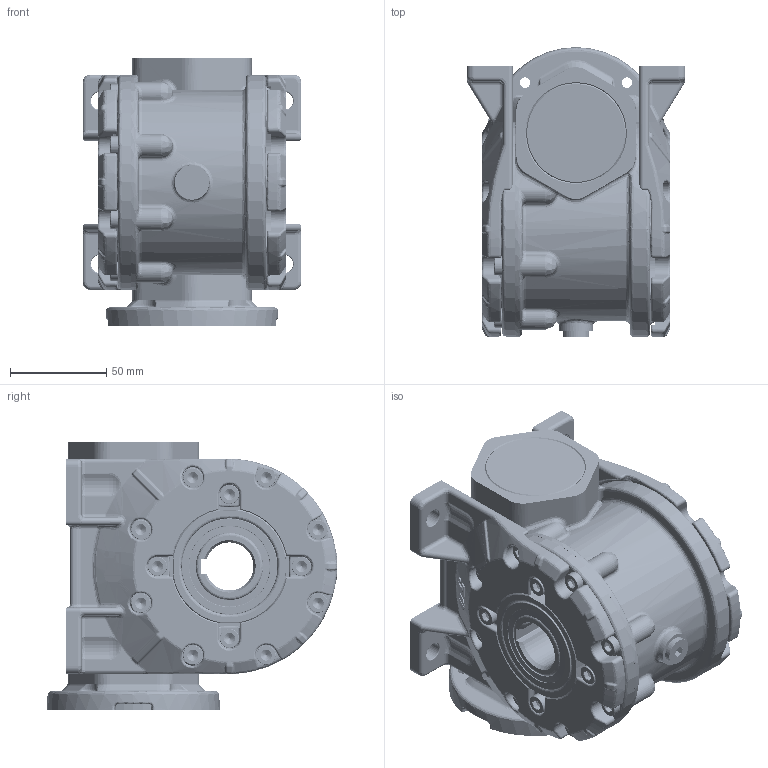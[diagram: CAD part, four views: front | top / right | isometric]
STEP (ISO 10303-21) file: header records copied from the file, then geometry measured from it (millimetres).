
FILE_DESCRIPTION (( 'STEP AP214' ), '1' );
FILE_NAME ('Sestava MRT50A-B.STEP', '2007-03-28T10:21:06', ( '' ), ( '' ), 'SwSTEP 2.0', 'SolidWorks 2004146', '' );
FILE_SCHEMA (( 'AUTOMOTIVE_DESIGN' ));
Length unit declared in the file: millimetre
Products named in the file (1): Sestava MRT50A-B
Bounding box: 114 x 151 x 140 mm (x, y, z)
Volume: 849183.2 mm3; surface area: 342027.7 mm2
Topology: 42 solids, 42 shells, 4811 faces, 11826 edges, 6778 vertices
Faces by surface type: bspline 2212, cylinder 1184, plane 788, cone 627
Entity records: 416807 total; most frequent: CARTESIAN_POINT 303608, ORIENTED_EDGE 22922, DIRECTION 16956, EDGE_CURVE 11461, AXIS2_PLACEMENT_3D 7180, VERTEX_POINT 6778, EDGE_LOOP 5051, FACE_OUTER_BOUND 4811
